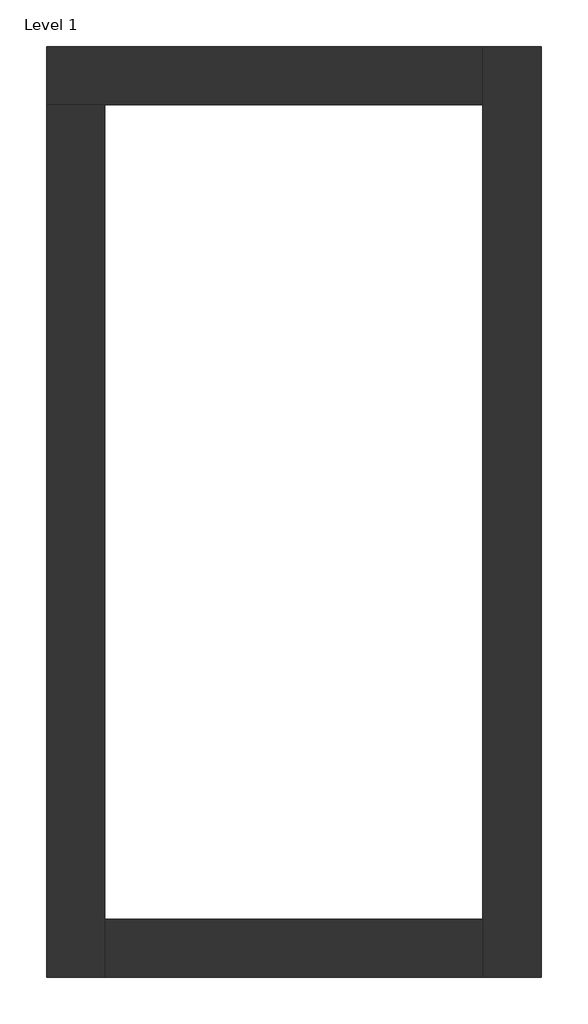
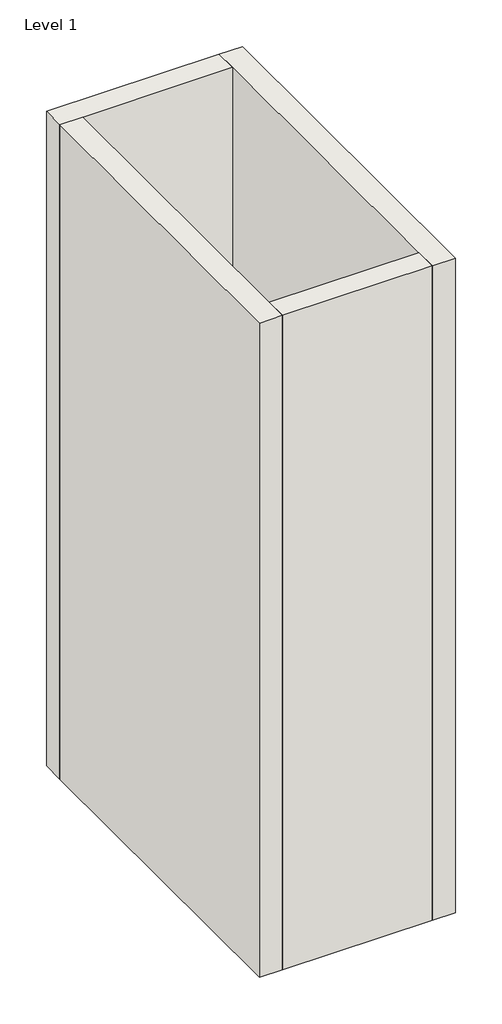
# One storey: 4 walls.
"""IFC4 building model written with IfcOpenShell, lengths in millimetres."""

import ifcopenshell
import ifcopenshell.guid

model = None  # the IFC model being written
_history = None  # IfcOwnerHistory: only IFC2X3 demands one
_inside = {}  # id of a spatial element -> (the spatial element, [elements in it])
_under = {}  # id of a project, library or spatial element -> (it, [spatial elements below it])
_declared = {}  # id of a project -> (the project, [libraries it declares])
_typed = {}  # id of a type object -> (the type object, [elements of that type])
_made_of = {}  # id of a material, layer set ... -> (it, [elements and type objects made of it])


def new_model(schema):
    """Start an empty IFC model of exactly this schema.

    Asked for "IFC4X3", IfcOpenShell would pick the latest addendum, in which some entities
    have other attributes; the version numbers below select the first issue.
    IFC2X3 requires an IfcOwnerHistory on every rooted entity: one is made here for all.
    """
    global model, _history
    if schema == "IFC4X3":
        model = ifcopenshell.file(schema_version=(4, 3, 0, 0))
    else:
        model = ifcopenshell.file(schema=schema)
    _inside.clear()
    _under.clear()
    _declared.clear()
    _typed.clear()
    _made_of.clear()
    _history = None
    if model.schema == "IFC2X3":
        org = make("IfcOrganization", Name="unknown")
        user = make(
            "IfcPersonAndOrganization",
            ThePerson=make("IfcPerson", FamilyName="unknown"),
            TheOrganization=org,
        )
        app = make(
            "IfcApplication",
            ApplicationDeveloper=org,
            Version="unknown",
            ApplicationFullName="unknown",
            ApplicationIdentifier="unknown",
        )
        _history = make(
            "IfcOwnerHistory",
            OwningUser=user,
            OwningApplication=app,
            ChangeAction="ADDED",
            CreationDate=0,
        )
    return model


def make(cls, **values):
    """One entity of the class cls with the attributes given. An attribute that is None is left unset."""
    return model.create_entity(
        cls, **{name: value for name, value in values.items() if value is not None}
    )


def rooted(cls, **values):
    """An entity with a GlobalId (a new one), such as an element, a storey or a relation."""
    return make(cls, GlobalId=ifcopenshell.guid.new(), OwnerHistory=_history, **values)


def si_unit(unit_type, name, prefix=None):
    """IfcSIUnit, for example si_unit("LENGTHUNIT", "METRE", prefix="MILLI")."""
    return make("IfcSIUnit", UnitType=unit_type, Prefix=prefix, Name=name)


def assignment(units):
    """IfcUnitAssignment: the units of a project."""
    return None if units is None else make("IfcUnitAssignment", Units=units)


def point(xyz):
    """IfcCartesianPoint."""
    return None if xyz is None else make("IfcCartesianPoint", Coordinates=xyz)


def direction(xyz):
    """IfcDirection."""
    return None if xyz is None else make("IfcDirection", DirectionRatios=xyz)


def frame(location, z_axis=None, x_axis=None):
    """IfcAxis2Placement3D, a coordinate frame: its origin and axes. An axis left out is left unset."""
    return make(
        "IfcAxis2Placement3D",
        Location=point(location),
        Axis=direction(z_axis),
        RefDirection=direction(x_axis),
    )


def origin():
    """The frame at (0, 0, 0) with its axes left unset."""
    return frame((0.0, 0.0, 0.0))


def origin_with_axes():
    """The frame at (0, 0, 0) with the z axis (0, 0, 1) and the x axis (1, 0, 0) written out."""
    return frame((0.0, 0.0, 0.0), z_axis=(0.0, 0.0, 1.0), x_axis=(1.0, 0.0, 0.0))


def place(relative_to, where):
    """IfcLocalPlacement: puts the frame where relative to a parent placement (None: the world)."""
    return make(
        "IfcLocalPlacement", PlacementRelTo=relative_to, RelativePlacement=where
    )


def context(
    kind, dimensions, precision=None, world=None, true_north=None, identifier=None
):
    """IfcGeometricRepresentationContext, for example the 3D "Model" context."""
    return make(
        "IfcGeometricRepresentationContext",
        ContextIdentifier=identifier,
        ContextType=kind,
        CoordinateSpaceDimension=dimensions,
        Precision=precision,
        WorldCoordinateSystem=world,
        TrueNorth=true_north,
    )


def project(units=None, contexts=None):
    """IfcProject with its units and contexts."""
    return rooted(
        "IfcProject",
        Name="project",
        RepresentationContexts=contexts,
        UnitsInContext=assignment(units),
    )


def spatial(cls, under=None, at=None, **own):
    """A site, building, storey or space (cls), placed at a placement, below another one or the project."""
    s = rooted(cls, ObjectPlacement=at, **own)
    if under is not None:
        _under.setdefault(under.id(), (under, []))[1].append(s)
    return s


def polyline(points):
    """IfcPolyline through the points."""
    return make("IfcPolyline", Points=[point(p) for p in points])


def outline(outer, holes=None, kind="AREA"):
    """IfcArbitraryClosedProfileDef: a profile drawn as a closed curve; with holes, ...WithVoids."""
    if holes is None:
        return make("IfcArbitraryClosedProfileDef", ProfileType=kind, OuterCurve=outer)
    return make(
        "IfcArbitraryProfileDefWithVoids",
        ProfileType=kind,
        OuterCurve=outer,
        InnerCurves=holes,
    )


def extrude(swept, where, along, depth):
    """IfcExtrudedAreaSolid: the profile swept, set in the frame where, extruded along a direction by depth."""
    return make(
        "IfcExtrudedAreaSolid",
        SweptArea=swept,
        Position=where,
        ExtrudedDirection=direction(along),
        Depth=depth,
    )


def faces_of(points, faces, orient=None, outer=None):
    """IfcFace entities. A face is a list of loops; a loop is a list of indices into points, from 0.

    orient and outer hold one flag for each loop. By default every Orientation is true, the
    first loop of a face is its IfcFaceOuterBound and the others are IfcFaceBound.
    """
    made = []
    for i, loops in enumerate(faces):
        bounds = []
        for j, loop in enumerate(loops):
            is_outer = j == 0 if outer is None else outer[i][j]
            bounds.append(
                make(
                    "IfcFaceOuterBound" if is_outer else "IfcFaceBound",
                    Bound=make("IfcPolyLoop", Polygon=[points[k] for k in loop]),
                    Orientation=True if orient is None else orient[i][j],
                )
            )
        made.append(make("IfcFace", Bounds=bounds))
    return made


def faceted_brep(points, faces, orient=None, outer=None, voids=None):
    """IfcFacetedBrep: a solid bounded by flat faces; with voids (closed shells), ...WithVoids."""
    shared = [point(p) for p in points]
    hull = make("IfcClosedShell", CfsFaces=faces_of(shared, faces, orient, outer))
    if voids is None:
        return make("IfcFacetedBrep", Outer=hull)
    return make(
        "IfcFacetedBrepWithVoids",
        Outer=hull,
        Voids=[
            make(cls, CfsFaces=faces_of(shared, fs, o, b)) for cls, fs, o, b in voids
        ],
    )


def shape(context_of_items, identifier, shape_type, items):
    """IfcShapeRepresentation: the items that make up one representation, for example the "Body"."""
    return make(
        "IfcShapeRepresentation",
        ContextOfItems=context_of_items,
        RepresentationIdentifier=identifier,
        RepresentationType=shape_type,
        Items=items,
    )


def made_of(thing, what):
    """Note that an element or type object is made of a material, layer set ...; save() writes the relation."""
    if what is not None:
        _made_of.setdefault(what.id(), (what, []))[1].append(thing)
    return thing


def element(
    cls,
    number,
    at=None,
    inside=None,
    cuts=None,
    type_object=None,
    material=None,
    context=None,
    identifier="Body",
    shape_type=None,
    held_by="IfcProductDefinitionShape",
    body=None,
    shapes=None,
    **own,
):
    """One element of the class cls, such as IfcWall. Its Tag is "e" and its number.

    at: its placement. inside: the storey or other place that contains it. cuts: it is an
    opening in that element (IfcRelVoidsElement). A single representation is given by context,
    identifier, shape_type and body (its items); several are given by shapes. held_by: the class
    of the entity that holds the representations. save() writes the other relations.
    """
    e = rooted(cls, Tag="e%d" % number, ObjectPlacement=at, **own)
    if body is not None:
        shapes = [shape(context, identifier, shape_type, body)]
    if shapes is not None:
        e.Representation = make(held_by, Representations=shapes)
    if inside is not None:
        _inside.setdefault(inside.id(), (inside, []))[1].append(e)
    if cuts is not None:
        rooted(
            "IfcRelVoidsElement", RelatingBuildingElement=cuts, RelatedOpeningElement=e
        )
    if type_object is not None:
        _typed.setdefault(type_object.id(), (type_object, []))[1].append(e)
    return made_of(e, material)


def aggregate(whole, parts):
    """IfcRelAggregates: a whole, such as a stair, and the parts it consists of."""
    return rooted("IfcRelAggregates", RelatingObject=whole, RelatedObjects=parts)


def save(model, path):
    """Write the relations noted so far, then the file.

    IfcRelAggregates (storeys below a building ...), IfcRelContainedInSpatialStructure (elements
    in a storey), IfcRelDefinesByType, IfcRelAssociatesMaterial and IfcRelDeclares: one each for
    every whole, place, type object, material and project.
    """
    for whole, parts in _under.values():
        aggregate(whole, parts)
    for where, things in _inside.values():
        rooted(
            "IfcRelContainedInSpatialStructure",
            RelatedElements=things,
            RelatingStructure=where,
        )
    for kind, things in _typed.values():
        rooted("IfcRelDefinesByType", RelatedObjects=things, RelatingType=kind)
    for what, things in _made_of.values():
        rooted("IfcRelAssociatesMaterial", RelatedObjects=things, RelatingMaterial=what)
    for by, libraries in _declared.values():
        rooted("IfcRelDeclares", RelatingContext=by, RelatedDefinitions=libraries)
    model.write(path)


model = new_model("IFC4")

# Units and contexts
model_context = context("Model", 3, world=origin())
ifc_project = project(units=[si_unit("LENGTHUNIT", "METRE", prefix="MILLI")], contexts=[model_context])

# Site, building, storey
site = spatial("IfcSite", under=ifc_project)
building = spatial("IfcBuilding", under=site)
storey = spatial("IfcBuildingStorey", under=building, Name="Level 1", Elevation=0.0)

# Walls
placement = place(None, origin())
element("IfcWall", 1, ObjectType="Generic - 8\"", at=placement, inside=storey, context=model_context, shape_type="Brep", body=[
    faceted_brep([(-852.706997, 219.0388617, 0.0), (-649.506997, 219.0388617, 0.0), (671.293003, 219.0388617, 0.0), (671.293003, 219.0388617, 6096.0), (-649.506997, 219.0388617, 6096.0), (-852.706997, 219.0388617, 6096.0), (-852.706997, 422.2388617, 0.0), (-852.706997, 422.2388617, 6096.0), (671.293003, 422.2388617, 6096.0), (671.293003, 422.2388617, 0.0)], [[[0, 1, 2, 3, 4, 5]], [[6, 7, 8, 9]], [[2, 1, 0, 6, 9]], [[5, 4, 3, 8, 7]], [[0, 5, 7, 6]], [[3, 2, 9, 8]]]),
])
element("IfcWall", 2, ObjectType="Generic - 8\"", at=placement, inside=storey, context=model_context, shape_type="Brep", body=[
    faceted_brep([(-649.506997, -2828.9611383, 0.0), (-649.506997, -2625.7611383, 0.0), (-649.506997, 219.0388617, 0.0), (-649.506997, 219.0388617, 6096.0), (-649.506997, -2625.7611383, 6096.0), (-649.506997, -2828.9611383, 6096.0), (-852.706997, -2828.9611383, 0.0), (-852.706997, -2828.9611383, 6096.0), (-852.706997, 219.0388617, 6096.0), (-852.706997, 219.0388617, 0.0)], [[[0, 1, 2, 3, 4, 5]], [[6, 7, 8, 9]], [[2, 1, 0, 6, 9]], [[5, 4, 3, 8, 7]], [[0, 5, 7, 6]], [[3, 2, 9, 8]]]),
])
element("IfcWall", 3, ObjectType="Generic - 8\"", at=placement, inside=storey, context=model_context, shape_type="SweptSolid", body=[
    extrude(outline(polyline([(-649.506997, -2625.7611383), (671.293003, -2625.7611383), (671.293003, -2828.9611383), (-649.506997, -2828.9611383), (-649.506997, -2625.7611383)])), origin_with_axes(), (0.0, 0.0, 1.0), 6096.0),
])
element("IfcWall", 4, ObjectType="Generic - 8\"", at=placement, inside=storey, context=model_context, shape_type="Brep", body=[
    faceted_brep([(671.293003, 422.2388617, 0.0), (671.293003, 219.0388617, 0.0), (671.293003, -2625.7611383, 0.0), (671.293003, -2828.9611383, 0.0), (671.293003, -2828.9611383, 6096.0), (671.293003, -2625.7611383, 6096.0), (671.293003, 219.0388617, 6096.0), (671.293003, 422.2388617, 6096.0), (874.493003, 422.2388617, 0.0), (874.493003, 422.2388617, 6096.0), (874.493003, -2828.9611383, 6096.0), (874.493003, -2828.9611383, 0.0)], [[[0, 1, 2, 3, 4, 5, 6, 7]], [[8, 9, 10, 11]], [[3, 2, 1, 0, 8, 11]], [[7, 6, 5, 4, 10, 9]], [[0, 7, 9, 8]], [[4, 3, 11, 10]]]),
])

save(model, "model.ifc")
